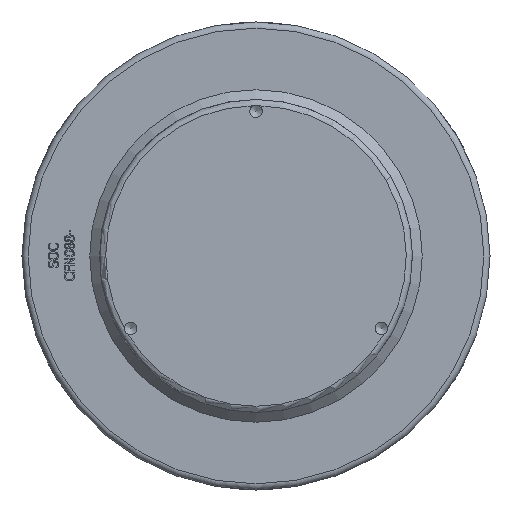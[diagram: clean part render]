
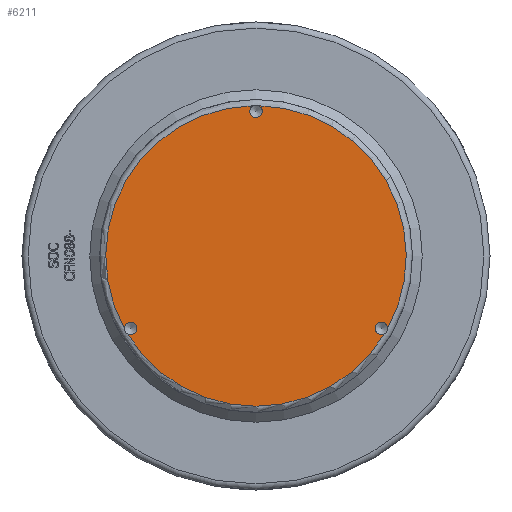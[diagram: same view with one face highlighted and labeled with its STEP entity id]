
A CAD part, front view. The second image highlights one B-rep face of the part: STEP entity #6211.
In plain terms, the highlighted planar face has unit normal (0, -1, 0) as drawn and (0, 1, 0) by its records, which use the part's own axes.
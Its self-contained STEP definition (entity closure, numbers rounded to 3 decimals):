
#1185=PLANE('',#6641);
#1848=FACE_OUTER_BOUND('',#2221,.T.);
#2221=EDGE_LOOP('',(#4294,#4295,#4296,#4297,#4298,#4299));
#2644=CIRCLE('',#6631,5.053);
#2646=CIRCLE('',#6635,5.053);
#2647=CIRCLE('',#6637,122.);
#2648=CIRCLE('',#6638,122.);
#2649=CIRCLE('',#6639,122.);
#2651=CIRCLE('',#6642,5.053);
#2672=VERTEX_POINT('',#7636);
#2673=VERTEX_POINT('',#7637);
#2675=VERTEX_POINT('',#7651);
#2676=VERTEX_POINT('',#7652);
#2677=VERTEX_POINT('',#7663);
#2678=VERTEX_POINT('',#7665);
#3323=EDGE_CURVE('',#2673,#2672,#2644,.T.);
#3326=EDGE_CURVE('',#2676,#2675,#2646,.T.);
#3327=EDGE_CURVE('',#2673,#2677,#2647,.T.);
#3329=EDGE_CURVE('',#2678,#2675,#2648,.T.);
#3330=EDGE_CURVE('',#2676,#2672,#2649,.T.);
#3332=EDGE_CURVE('',#2678,#2677,#2651,.T.);
#4294=ORIENTED_EDGE('',*,*,#3323,.T.);
#4295=ORIENTED_EDGE('',*,*,#3330,.F.);
#4296=ORIENTED_EDGE('',*,*,#3326,.T.);
#4297=ORIENTED_EDGE('',*,*,#3329,.F.);
#4298=ORIENTED_EDGE('',*,*,#3332,.T.);
#4299=ORIENTED_EDGE('',*,*,#3327,.F.);
#6211=ADVANCED_FACE('',(#1848),#1185,.T.);
#6631=AXIS2_PLACEMENT_3D('',#7646,#6815,#6816);
#6635=AXIS2_PLACEMENT_3D('',#7661,#6823,#6824);
#6637=AXIS2_PLACEMENT_3D('',#7664,#6827,#6828);
#6638=AXIS2_PLACEMENT_3D('',#7674,#6829,#6830);
#6639=AXIS2_PLACEMENT_3D('',#7675,#6831,#6832);
#6641=AXIS2_PLACEMENT_3D('',#7678,#6835,#6836);
#6642=AXIS2_PLACEMENT_3D('',#7679,#6837,#6838);
#6815=DIRECTION('center_axis',(0.,-1.,0.));
#6816=DIRECTION('ref_axis',(-0.5,0.,-0.866));
#6823=DIRECTION('center_axis',(0.,-1.,0.));
#6824=DIRECTION('ref_axis',(-0.5,0.,0.866));
#6827=DIRECTION('center_axis',(0.,-1.,0.));
#6828=DIRECTION('ref_axis',(-1.,0.,0.));
#6829=DIRECTION('center_axis',(0.,-1.,0.));
#6830=DIRECTION('ref_axis',(-1.,0.,0.));
#6831=DIRECTION('center_axis',(0.,-1.,0.));
#6832=DIRECTION('ref_axis',(-1.,0.,0.));
#6835=DIRECTION('center_axis',(0.,1.,0.));
#6836=DIRECTION('ref_axis',(0.,0.,1.));
#6837=DIRECTION('center_axis',(0.,-1.,0.));
#6838=DIRECTION('ref_axis',(1.,0.,0.));
#7636=CARTESIAN_POINT('',(104.465,231.,-63.017));
#7637=CARTESIAN_POINT('',(106.807,231.,-58.961));
#7646=CARTESIAN_POINT('Origin',(101.758,231.,-58.75));
#7651=CARTESIAN_POINT('',(-106.807,231.,-58.961));
#7652=CARTESIAN_POINT('',(-104.465,231.,-63.017));
#7661=CARTESIAN_POINT('Origin',(-101.758,231.,-58.75));
#7663=CARTESIAN_POINT('',(2.342,231.,121.978));
#7664=CARTESIAN_POINT('Origin',(0.,231.,0.));
#7665=CARTESIAN_POINT('',(-2.342,231.,121.978));
#7674=CARTESIAN_POINT('Origin',(0.,231.,0.));
#7675=CARTESIAN_POINT('Origin',(0.,231.,0.));
#7678=CARTESIAN_POINT('Origin',(127.,231.,0.));
#7679=CARTESIAN_POINT('Origin',(0.,231.,117.5));
